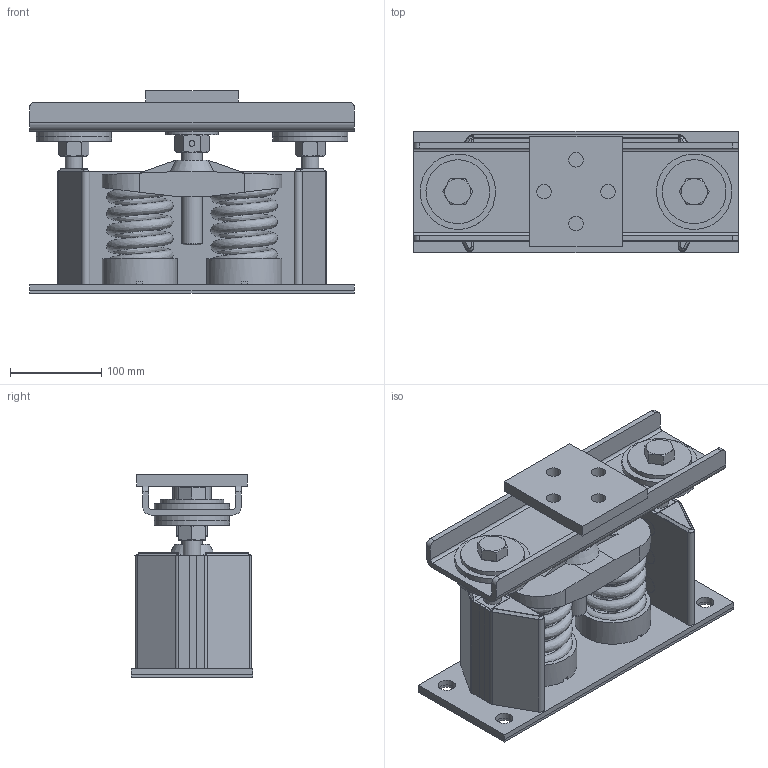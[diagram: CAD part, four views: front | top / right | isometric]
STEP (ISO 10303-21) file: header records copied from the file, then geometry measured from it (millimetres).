
FILE_DESCRIPTION(/* description */ (''),/* implementation_level */ '2;1');
FILE_NAME(/* name */ '\\Mleuckthor2\cad-proe_solids\WEBSITE FILES 05.22.13\STEP\SLRSO\SLRSO-2.stp',/* time_stamp */ '2016-04-28T12:27:57-04:00',/* author */ ('rramoutar'),/* organization */ ('Mason Industries Inc.'),/* preprocessor_version */ 'ST-DEVELOPER v15.6',/* originating_system */ 'Autodesk Inventor 2015',/* authorisation */ '');
FILE_SCHEMA (('CONFIG_CONTROL_DESIGN'));
Products named in the file (1): SLRSO-2-4770
Bounding box: 355.6 x 133.35 x 222.25 mm (x, y, z)
Volume: 2307932.5 mm3; surface area: 958743.5 mm2
Topology: 47 solids, 49 shells, 3024 faces, 7119 edges, 4697 vertices
Faces by surface type: plane 2817, cylinder 129, cone 72, torus 4, bspline 2
Full cylindrical faces by diameter (mm): 6.35 x4, 12.7 x2, 14.287 x4, 15.875 x8, 16.307 x2, 19.05 x28, 19.177 x2, 20.637 x4, 22.225 x1, 23.812 x2, 28.575 x2, 35.052 x1, 38.1 x3, 42.164 x1, 44.45 x4, 57.15 x1, 69.85 x2, 72.231 x2, 73.025 x4, 82.55 x8
Entity records: 91682 total; most frequent: CARTESIAN_POINT 19297, ORIENTED_EDGE 13960, DIRECTION 13270, EDGE_CURVE 6980, LINE 6500, VECTOR 6500, VERTEX_POINT 4660, EDGE_LOOP 3730
